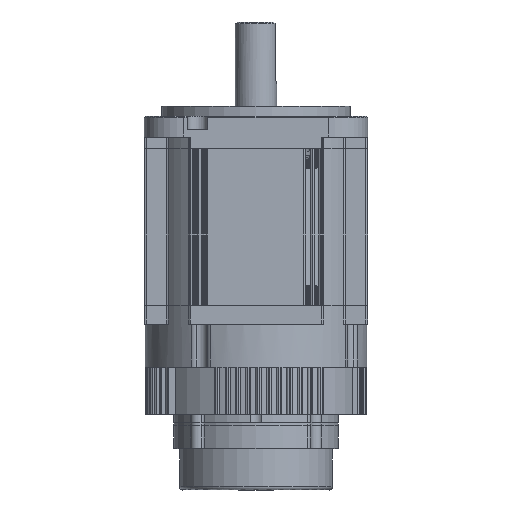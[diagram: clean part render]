
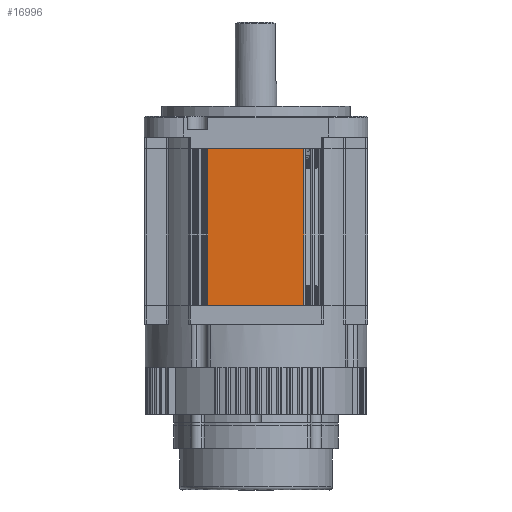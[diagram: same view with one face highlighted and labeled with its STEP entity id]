
A CAD part, front view. The second image highlights one B-rep face of the part: STEP entity #16996.
In plain terms, the highlighted planar face has unit normal (0, -1, 0).
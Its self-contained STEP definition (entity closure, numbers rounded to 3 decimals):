
#1027=FACE_OUTER_BOUND('',#1887,.T.);
#1887=EDGE_LOOP('',(#11725,#11726,#11727,#11728));
#3984=LINE('',#26351,#5289);
#3985=LINE('',#26353,#5290);
#3986=LINE('',#26355,#5291);
#3987=LINE('',#26356,#5292);
#5289=VECTOR('',#20578,55.847);
#5290=VECTOR('',#20579,91.2);
#5291=VECTOR('',#20580,55.847);
#5292=VECTOR('',#20581,91.2);
#6697=VERTEX_POINT('',#26349);
#6698=VERTEX_POINT('',#26350);
#6699=VERTEX_POINT('',#26352);
#6700=VERTEX_POINT('',#26354);
#8706=EDGE_CURVE('',#6697,#6698,#3984,.F.);
#8707=EDGE_CURVE('',#6698,#6699,#3985,.F.);
#8708=EDGE_CURVE('',#6699,#6700,#3986,.T.);
#8709=EDGE_CURVE('',#6700,#6697,#3987,.T.);
#11725=ORIENTED_EDGE('',*,*,#8706,.T.);
#11726=ORIENTED_EDGE('',*,*,#8707,.T.);
#11727=ORIENTED_EDGE('',*,*,#8708,.T.);
#11728=ORIENTED_EDGE('',*,*,#8709,.T.);
#15743=PLANE('',#18096);
#16996=ADVANCED_FACE('',(#1027),#15743,.T.);
#18096=AXIS2_PLACEMENT_3D('',#26348,#20576,#20577);
#20576=DIRECTION('center_axis',(0.,-1.,0.));
#20577=DIRECTION('ref_axis',(0.,0.,-1.));
#20578=DIRECTION('',(1.,0.,0.));
#20579=DIRECTION('',(0.,0.,1.));
#20580=DIRECTION('',(1.,0.,0.));
#20581=DIRECTION('',(0.,0.,1.));
#26348=CARTESIAN_POINT('Origin',(-38.2,11.688,-70.64));
#26349=CARTESIAN_POINT('',(54.5,11.688,20.56));
#26350=CARTESIAN_POINT('',(-1.347,11.688,20.56));
#26351=CARTESIAN_POINT('',(-1.347,11.688,20.56));
#26352=CARTESIAN_POINT('',(-1.347,11.688,-70.64));
#26353=CARTESIAN_POINT('',(-1.347,11.688,-70.64));
#26354=CARTESIAN_POINT('',(54.5,11.688,-70.64));
#26355=CARTESIAN_POINT('',(-1.347,11.688,-70.64));
#26356=CARTESIAN_POINT('',(54.5,11.688,-70.64));
